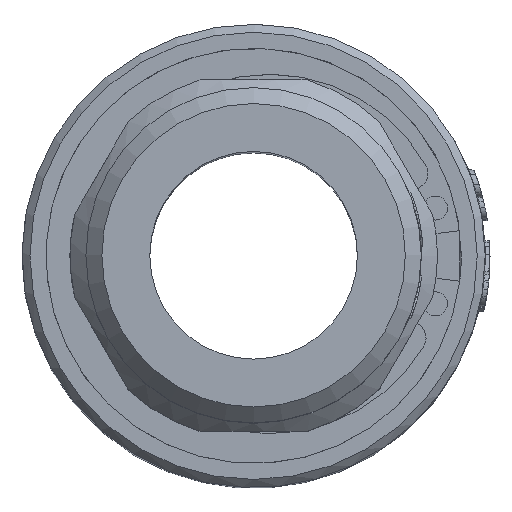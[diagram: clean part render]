
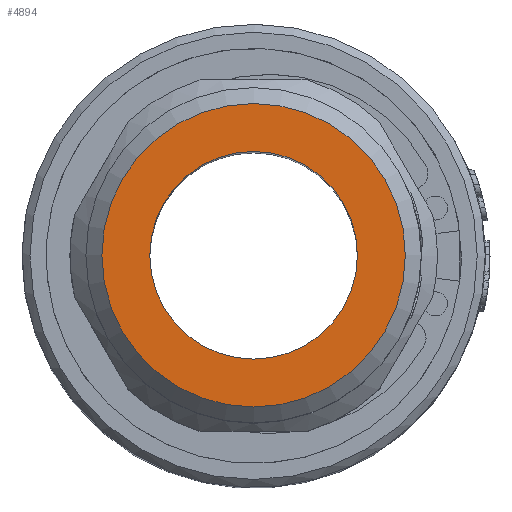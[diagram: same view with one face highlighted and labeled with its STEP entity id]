
A CAD part, top view. The second image highlights one B-rep face of the part: STEP entity #4894.
In plain terms, the highlighted planar face has unit normal (0, 0, 1).
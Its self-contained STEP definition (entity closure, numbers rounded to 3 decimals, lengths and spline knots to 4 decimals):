
#212=FACE_BOUND('',#7382,.T.);
#213=FACE_BOUND('',#7383,.T.);
#445=CIRCLE('',#20334,6.5);
#462=CIRCLE('',#20359,9.5);
#4894=ADVANCED_FACE('',(#212,#213),#5484,.T.);
#5484=PLANE('',#20361);
#7382=EDGE_LOOP('',(#11466));
#7383=EDGE_LOOP('',(#11467));
#11466=ORIENTED_EDGE('',*,*,#17816,.T.);
#11467=ORIENTED_EDGE('',*,*,#17835,.T.);
#15109=VERTEX_POINT('',#38525);
#15127=VERTEX_POINT('',#38570);
#17816=EDGE_CURVE('',#15109,#15109,#445,.T.);
#17835=EDGE_CURVE('',#15127,#15127,#462,.T.);
#20334=AXIS2_PLACEMENT_3D('',#38524,#22136,#22137);
#20359=AXIS2_PLACEMENT_3D('',#38569,#22188,#22189);
#20361=AXIS2_PLACEMENT_3D('',#38572,#22192,#22193);
#22136=DIRECTION('',(0.,0.,-1.));
#22137=DIRECTION('',(1.,0.,0.));
#22188=DIRECTION('',(0.,0.,1.));
#22189=DIRECTION('',(1.,0.,0.));
#22192=DIRECTION('',(0.,0.,1.));
#22193=DIRECTION('',(-1.,0.,0.));
#38524=CARTESIAN_POINT('',(0.,0.,64.));
#38525=CARTESIAN_POINT('',(6.5,0.,64.));
#38569=CARTESIAN_POINT('',(0.,0.,64.));
#38570=CARTESIAN_POINT('',(9.5,0.,64.));
#38572=CARTESIAN_POINT('',(0.,0.,64.));
